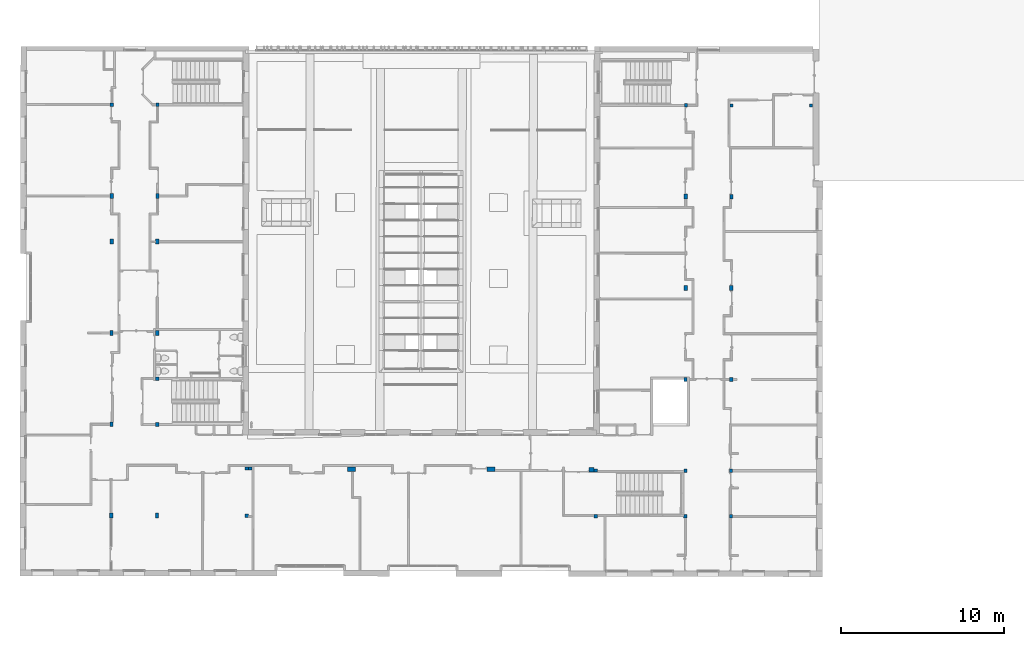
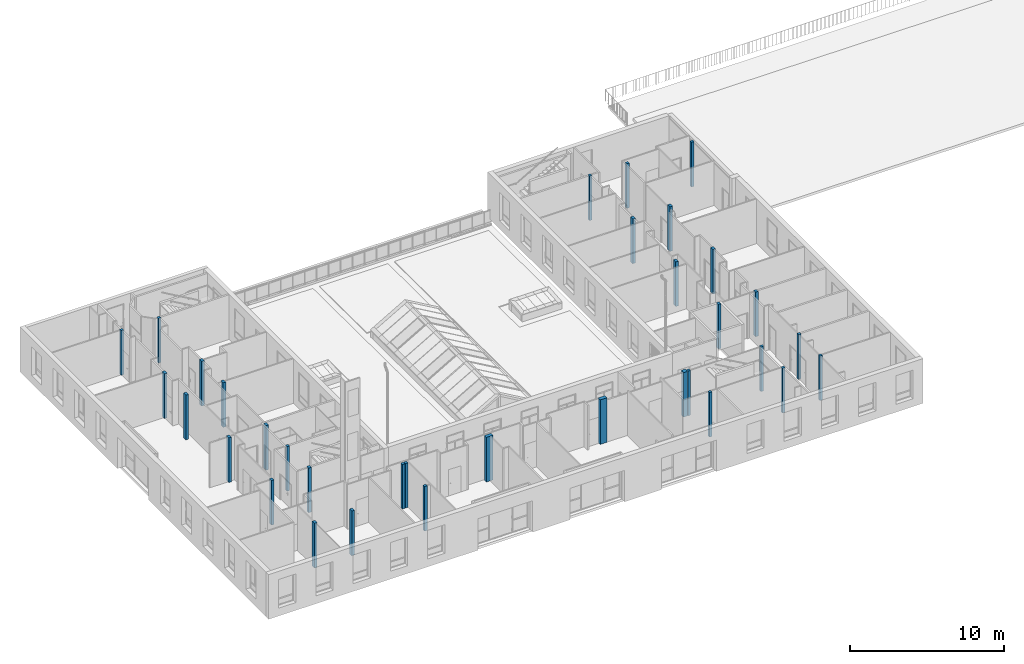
# One storey, part 1 of 101: 34 columns.
"""IFC2X3 building model written with IfcOpenShell, lengths in metres."""

import ifcopenshell
import ifcopenshell.guid

model = None  # the IFC model being written
_history = None  # IfcOwnerHistory: only IFC2X3 demands one
_inside = {}  # id of a spatial element -> (the spatial element, [elements in it])
_under = {}  # id of a project, library or spatial element -> (it, [spatial elements below it])
_declared = {}  # id of a project -> (the project, [libraries it declares])
_typed = {}  # id of a type object -> (the type object, [elements of that type])
_made_of = {}  # id of a material, layer set ... -> (it, [elements and type objects made of it])


def new_model(schema):
    """Start an empty IFC model of exactly this schema.

    Asked for "IFC4X3", IfcOpenShell would pick the latest addendum, in which some entities
    have other attributes; the version numbers below select the first issue.
    IFC2X3 requires an IfcOwnerHistory on every rooted entity: one is made here for all.
    """
    global model, _history
    if schema == "IFC4X3":
        model = ifcopenshell.file(schema_version=(4, 3, 0, 0))
    else:
        model = ifcopenshell.file(schema=schema)
    _inside.clear()
    _under.clear()
    _declared.clear()
    _typed.clear()
    _made_of.clear()
    _history = None
    if model.schema == "IFC2X3":
        org = make("IfcOrganization", Name="unknown")
        user = make(
            "IfcPersonAndOrganization",
            ThePerson=make("IfcPerson", FamilyName="unknown"),
            TheOrganization=org,
        )
        app = make(
            "IfcApplication",
            ApplicationDeveloper=org,
            Version="unknown",
            ApplicationFullName="unknown",
            ApplicationIdentifier="unknown",
        )
        _history = make(
            "IfcOwnerHistory",
            OwningUser=user,
            OwningApplication=app,
            ChangeAction="ADDED",
            CreationDate=0,
        )
    return model


def make(cls, **values):
    """One entity of the class cls with the attributes given. An attribute that is None is left unset."""
    return model.create_entity(
        cls, **{name: value for name, value in values.items() if value is not None}
    )


def entity(cls, *values):
    """Any entity or typed value of the class cls, its attributes in the order of the schema. None: left unset."""
    e = model.create_entity(cls)
    for i, value in enumerate(values):
        if value is not None:
            e[i] = value
    return e


def rooted(cls, **values):
    """An entity with a GlobalId (a new one), such as an element, a storey or a relation."""
    return make(cls, GlobalId=ifcopenshell.guid.new(), OwnerHistory=_history, **values)


def si_unit(unit_type, name, prefix=None):
    """IfcSIUnit, for example si_unit("LENGTHUNIT", "METRE", prefix="MILLI")."""
    return make("IfcSIUnit", UnitType=unit_type, Prefix=prefix, Name=name)


def converted_unit(unit_type, name, factor, base, dimensions=None, offset=None):
    """IfcConversionBasedUnit, such as the inch: factor (a typed value) times the base unit."""
    return make(
        "IfcConversionBasedUnit"
        if offset is None
        else "IfcConversionBasedUnitWithOffset",
        ConversionOffset=offset,
        Dimensions=None
        if dimensions is None
        else entity("IfcDimensionalExponents", *dimensions),
        UnitType=unit_type,
        Name=name,
        ConversionFactor=make(
            "IfcMeasureWithUnit", ValueComponent=factor, UnitComponent=base
        ),
    )


def derived_unit(unit_type, elements):
    """IfcDerivedUnit: a product of units, each with its exponent."""
    return make(
        "IfcDerivedUnit",
        Elements=[
            make("IfcDerivedUnitElement", Unit=unit, Exponent=power)
            for unit, power in elements
        ],
        UnitType=unit_type,
    )


def assignment(units):
    """IfcUnitAssignment: the units of a project."""
    return None if units is None else make("IfcUnitAssignment", Units=units)


def point(xyz):
    """IfcCartesianPoint."""
    return None if xyz is None else make("IfcCartesianPoint", Coordinates=xyz)


def direction(xyz):
    """IfcDirection."""
    return None if xyz is None else make("IfcDirection", DirectionRatios=xyz)


def frame(location, z_axis=None, x_axis=None):
    """IfcAxis2Placement3D, a coordinate frame: its origin and axes. An axis left out is left unset."""
    return make(
        "IfcAxis2Placement3D",
        Location=point(location),
        Axis=direction(z_axis),
        RefDirection=direction(x_axis),
    )


def frame_2d(location, x_axis=None):
    """IfcAxis2Placement2D, a coordinate frame in the plane: its origin and x axis."""
    return make(
        "IfcAxis2Placement2D", Location=point(location), RefDirection=direction(x_axis)
    )


def origin():
    """The frame at (0, 0, 0) with its axes left unset."""
    return frame((0.0, 0.0, 0.0))


def origin_2d_with_axis():
    """The frame at (0, 0) in the plane with the x axis (1, 0) written out."""
    return frame_2d((0.0, 0.0), x_axis=(1.0, 0.0))


def place(relative_to, where):
    """IfcLocalPlacement: puts the frame where relative to a parent placement (None: the world)."""
    return make(
        "IfcLocalPlacement", PlacementRelTo=relative_to, RelativePlacement=where
    )


def context(
    kind, dimensions, precision=None, world=None, true_north=None, identifier=None
):
    """IfcGeometricRepresentationContext, for example the 3D "Model" context."""
    return make(
        "IfcGeometricRepresentationContext",
        ContextIdentifier=identifier,
        ContextType=kind,
        CoordinateSpaceDimension=dimensions,
        Precision=precision,
        WorldCoordinateSystem=world,
        TrueNorth=true_north,
    )


def subcontext(parent, identifier, kind, view, scale=None):
    """IfcGeometricRepresentationSubContext, for example "Body" below "Model"."""
    return make(
        "IfcGeometricRepresentationSubContext",
        ContextIdentifier=identifier,
        ContextType=kind,
        ParentContext=parent,
        TargetScale=scale,
        TargetView=view,
    )


def project(units=None, contexts=None):
    """IfcProject with its units and contexts."""
    return rooted(
        "IfcProject",
        Name="project",
        RepresentationContexts=contexts,
        UnitsInContext=assignment(units),
    )


def spatial(cls, under=None, at=None, **own):
    """A site, building, storey or space (cls), placed at a placement, below another one or the project."""
    s = rooted(cls, ObjectPlacement=at, **own)
    if under is not None:
        _under.setdefault(under.id(), (under, []))[1].append(s)
    return s


def profile(cls, at=None, kind="AREA", **sizes):
    """A parametric profile (cls). Its sizes go by their IFC names, for example OverallWidth=200.0."""
    return make(cls, ProfileType=kind, Position=at, **sizes)


def rectangle(**sizes):
    """IfcRectangleProfileDef."""
    return profile("IfcRectangleProfileDef", **sizes)


def extrude(swept, where, along, depth):
    """IfcExtrudedAreaSolid: the profile swept, set in the frame where, extruded along a direction by depth."""
    return make(
        "IfcExtrudedAreaSolid",
        SweptArea=swept,
        Position=where,
        ExtrudedDirection=direction(along),
        Depth=depth,
    )


def shape(context_of_items, identifier, shape_type, items):
    """IfcShapeRepresentation: the items that make up one representation, for example the "Body"."""
    return make(
        "IfcShapeRepresentation",
        ContextOfItems=context_of_items,
        RepresentationIdentifier=identifier,
        RepresentationType=shape_type,
        Items=items,
    )


def source(mapping_origin, context_of_items, identifier, shape_type, items):
    """IfcRepresentationMap: a shape defined once, which mapped items show again and again."""
    return make(
        "IfcRepresentationMap",
        MappingOrigin=mapping_origin,
        MappedRepresentation=shape(context_of_items, identifier, shape_type, items),
    )


def transform(
    local_origin,
    x_axis=None,
    y_axis=None,
    z_axis=None,
    scale=None,
    scale2=None,
    scale3=None,
    uniform=True,
):
    """IfcCartesianTransformationOperator3D, or its non-uniform kind. x_axis, y_axis, z_axis: its Axis1, 2, 3."""
    if uniform:
        return make(
            "IfcCartesianTransformationOperator3D",
            Axis1=direction(x_axis),
            Axis2=direction(y_axis),
            LocalOrigin=point(local_origin),
            Scale=scale,
            Axis3=direction(z_axis),
        )
    return make(
        "IfcCartesianTransformationOperator3DnonUniform",
        Axis1=direction(x_axis),
        Axis2=direction(y_axis),
        LocalOrigin=point(local_origin),
        Scale=scale,
        Axis3=direction(z_axis),
        Scale2=scale2,
        Scale3=scale3,
    )


def mapped(mapping_source, mapping_target):
    """IfcMappedItem: shows the shape of a source again, moved by a transform."""
    return make(
        "IfcMappedItem", MappingSource=mapping_source, MappingTarget=mapping_target
    )


def material(Name=None, Category=None):
    """IfcMaterial."""
    return make("IfcMaterial", Name=Name, Category=Category)


def made_of(thing, what):
    """Note that an element or type object is made of a material, layer set ...; save() writes the relation."""
    if what is not None:
        _made_of.setdefault(what.id(), (what, []))[1].append(thing)
    return thing


def type_object(cls, material=None, **own):
    """A type object (cls), such as IfcWallType, which elements share."""
    return made_of(rooted(cls, **own), material)


def type_shapes(of_type, sources):
    """Give a type object the sources (RepresentationMaps) that its elements show as mapped items."""
    of_type.RepresentationMaps = sources


def element(
    cls,
    number,
    at=None,
    inside=None,
    cuts=None,
    type_object=None,
    material=None,
    context=None,
    identifier="Body",
    shape_type=None,
    held_by="IfcProductDefinitionShape",
    body=None,
    shapes=None,
    **own,
):
    """One element of the class cls, such as IfcWall. Its Tag is "e" and its number.

    at: its placement. inside: the storey or other place that contains it. cuts: it is an
    opening in that element (IfcRelVoidsElement). A single representation is given by context,
    identifier, shape_type and body (its items); several are given by shapes. held_by: the class
    of the entity that holds the representations. save() writes the other relations.
    """
    e = rooted(cls, Tag="e%d" % number, ObjectPlacement=at, **own)
    if body is not None:
        shapes = [shape(context, identifier, shape_type, body)]
    if shapes is not None:
        e.Representation = make(held_by, Representations=shapes)
    if inside is not None:
        _inside.setdefault(inside.id(), (inside, []))[1].append(e)
    if cuts is not None:
        rooted(
            "IfcRelVoidsElement", RelatingBuildingElement=cuts, RelatedOpeningElement=e
        )
    if type_object is not None:
        _typed.setdefault(type_object.id(), (type_object, []))[1].append(e)
    return made_of(e, material)


def aggregate(whole, parts):
    """IfcRelAggregates: a whole, such as a stair, and the parts it consists of."""
    return rooted("IfcRelAggregates", RelatingObject=whole, RelatedObjects=parts)


def save(model, path):
    """Write the relations noted so far, then the file.

    IfcRelAggregates (storeys below a building ...), IfcRelContainedInSpatialStructure (elements
    in a storey), IfcRelDefinesByType, IfcRelAssociatesMaterial and IfcRelDeclares: one each for
    every whole, place, type object, material and project.
    """
    for whole, parts in _under.values():
        aggregate(whole, parts)
    for where, things in _inside.values():
        rooted(
            "IfcRelContainedInSpatialStructure",
            RelatedElements=things,
            RelatingStructure=where,
        )
    for kind, things in _typed.values():
        rooted("IfcRelDefinesByType", RelatedObjects=things, RelatingType=kind)
    for what, things in _made_of.values():
        rooted("IfcRelAssociatesMaterial", RelatedObjects=things, RelatingMaterial=what)
    for by, libraries in _declared.values():
        rooted("IfcRelDeclares", RelatingContext=by, RelatedDefinitions=libraries)
    model.write(path)


model = new_model("IFC2X3")

# Units and contexts
model_context = context("Model", 3, precision=1e-05, world=origin(), true_north=direction((6.123233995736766e-17, 1.0)))
body_context = subcontext(model_context, "Body", "Model", "MODEL_VIEW")
ifc_project = project(units=[si_unit("LENGTHUNIT", "METRE"), si_unit("AREAUNIT", "SQUARE_METRE"), converted_unit("PLANEANGLEUNIT", "DEGREE", entity("IfcPlaneAngleMeasure", 0.017453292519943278), si_unit("PLANEANGLEUNIT", "RADIAN"), dimensions=[0, 0, 0, 0, 0, 0, 0]), derived_unit("THERMALTRANSMITTANCEUNIT", [(si_unit("MASSUNIT", "GRAM", prefix="KILO"), 1), (si_unit("THERMODYNAMICTEMPERATUREUNIT", "KELVIN"), -1), (si_unit("TIMEUNIT", "SECOND"), -3)])], contexts=[model_context])

# Site, building, storey
site_placement = place(None, frame((1253.6752467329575, 2072.143113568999, 91.49999999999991), z_axis=(0.0, 0.0, 1.0), x_axis=(0.7237211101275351, 0.6900925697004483, 0.0)))
site = spatial("IfcSite", under=ifc_project, at=site_placement, Name="Surface", CompositionType="ELEMENT")
building_placement = place(site_placement, origin())
building = spatial("IfcBuilding", under=site, at=building_placement, CompositionType="ELEMENT")
storey_placement = place(building_placement, origin())
storey = spatial("IfcBuildingStorey", under=building, at=storey_placement, Name="0- Rdc", CompositionType="ELEMENT", Elevation=-5.764692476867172e-13)

# Columns
ifc_material = material(Name="<Unnamed>")
column_type_1 = type_object("IfcColumnType", Name="ART-Béton-Poteau rectangulaire:20X20", PredefinedType="COLUMN", material=ifc_material)
shared_shape_1 = source(origin(), body_context, "Body", "SweptSolid", [
    extrude(rectangle(XDim=0.19999999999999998, YDim=0.19999999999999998, at=origin_2d_with_axis()), frame((0.0, 0.0, 0.0), z_axis=(0.0, 0.0, 1.0), x_axis=(-1.0, 0.0, 0.0)), (0.0, 0.0, 1.0), 3.549999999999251),
])
type_shapes(column_type_1, [shared_shape_1])
for number, where, z_axis, x_axis in (
    (1, (193.19998534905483, -3.0347104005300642, 0.0), (0.0, 0.0, 1.0), (0.7228702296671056, -0.6909838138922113, 0.0)),
    (2, (195.22402199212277, -4.9694650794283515, 0.0), (0.0, 0.0, 1.0), (0.7228702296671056, -0.6909838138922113, 0.0)),
    (3, (177.72194791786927, -19.227003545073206, 0.0), (0.0, 0.0, 1.0), (0.7228702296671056, -0.6909838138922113, 0.0)),
    (4, (179.74598456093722, -21.161758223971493, 0.0), (0.0, 0.0, 1.0), (0.7228702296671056, -0.6909838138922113, 0.0)),
    (5, (175.78719323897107, -21.251040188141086, 0.0), (0.0, 0.0, 1.0), (0.7228702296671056, -0.6909838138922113, 0.0)),
    (6, (177.81122988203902, -23.185794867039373, 0.0), (0.0, 0.0, 1.0), (0.7228702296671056, -0.6909838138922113, 0.0)),
    (7, (173.74616165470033, -15.426592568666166, 0.0), (0.0, 0.0, 1.0), (0.7228702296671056, -0.6909838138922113, 0.0)),
    (8, (171.81140697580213, -17.450629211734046, 0.0), (0.0, 0.0, 1.0), (0.7228702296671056, -0.6909838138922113, 0.0)),
    (9, (158.342382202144, -0.5708662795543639, 0.0), (0.0, 0.0, 1.0), (0.7228702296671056, -0.6909838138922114, 0.0)),
    (10, (158.5014136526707, -0.722882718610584, 0.0), (0.0, 0.0, 1.0), (0.7228702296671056, -0.6909838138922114, 0.0)),
    (11, (156.34198406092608, -2.6635755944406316, 0.0), (0.0, 0.0, 1.0), (0.7228702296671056, -0.6909838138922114, 0.0)),
    (12, (158.1704618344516, 7.208945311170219, 0.0), (0.0, 0.0, 1.0), (0.7228702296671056, -0.6909838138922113, 0.0)),
    (13, (169.77898990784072, 19.35316516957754, 0.0), (0.0, 0.0, 1.0), (0.7228702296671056, -0.6909838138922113, 0.0)),
    (14, (167.75495326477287, 21.287919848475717, 0.0), (0.0, 0.0, 1.0), (0.7228702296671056, -0.6909838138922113, 0.0)),
    (15, (198.7444000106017, -8.334556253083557, 0.0), (0.0, 0.0, 1.0), (0.7228702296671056, -0.6909838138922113, 0.0)),
):
    element("IfcColumn", number, at=place(storey_placement, frame(where, z_axis=z_axis, x_axis=x_axis)), inside=storey, type_object=column_type_1, material=ifc_material, Name="ART-Béton-Poteau rectangulaire:20X20", ObjectType="ART-Béton-Poteau rectangulaire:20X20", context=body_context, shape_type="MappedRepresentation", body=[
        mapped(shared_shape_1, transform((0.0, 0.0, 0.0), scale=1.0)),
    ])
column_type_2 = type_object("IfcColumnType", Name="ART-Béton-Poteau rectangulaire:20X30", PredefinedType="COLUMN", material=ifc_material)
shared_shape_2 = source(origin(), body_context, "Body", "SweptSolid", [
    extrude(rectangle(XDim=0.19999999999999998, YDim=0.2999999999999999, at=origin_2d_with_axis()), frame((0.0, 0.0, 0.0), z_axis=(0.0, 0.0, 1.0), x_axis=(-1.0, 0.0, 0.0)), (0.0, 0.0, 1.0), 3.549999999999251),
])
type_shapes(column_type_2, [shared_shape_2])
for number, where, z_axis, x_axis in (
    (16, (189.33047599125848, -7.082783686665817, 0.0), (0.0, 0.0, 1.0), (0.7228702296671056, -0.6909838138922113, 0.0)),
    (17, (191.35451263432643, -9.017538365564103, 0.0), (0.0, 0.0, 1.0), (0.7228702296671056, -0.6909838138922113, 0.0)),
    (18, (185.4609666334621, -11.130856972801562, 0.0), (0.0, 0.0, 1.0), (0.7228702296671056, -0.6909838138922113, 0.0)),
    (19, (187.48500327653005, -13.065611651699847, 0.0), (0.0, 0.0, 1.0), (0.7228702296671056, -0.6909838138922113, 0.0)),
    (20, (152.366197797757, 1.136835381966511, 0.0), (0.0, 0.0, 1.0), (0.7228702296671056, -0.6909838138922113, 0.0)),
    (21, (150.34216115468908, 3.0715900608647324, 0.0), (0.0, 0.0, 1.0), (0.7228702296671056, -0.6909838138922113, 0.0)),
    (22, (160.10521651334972, 9.232981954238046, 0.0), (0.0, 0.0, 1.0), (0.7228702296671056, -0.6909838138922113, 0.0)),
    (23, (158.0811798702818, 11.167736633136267, 0.0), (0.0, 0.0, 1.0), (0.7228702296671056, -0.6909838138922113, 0.0)),
    (24, (163.9747258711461, 13.281055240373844, 0.0), (0.0, 0.0, 1.0), (0.7228702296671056, -0.6909838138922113, 0.0)),
    (25, (161.9506892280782, 15.215809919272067, 0.0), (0.0, 0.0, 1.0), (0.7228702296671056, -0.6909838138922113, 0.0)),
    (26, (165.90948055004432, 15.305091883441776, 0.0), (0.0, 0.0, 1.0), (0.7228702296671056, -0.6909838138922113, 0.0)),
    (27, (163.88544390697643, 17.23984656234, 0.0), (0.0, 0.0, 1.0), (0.7228702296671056, -0.6909838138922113, 0.0)),
):
    element("IfcColumn", number, at=place(storey_placement, frame(where, z_axis=z_axis, x_axis=x_axis)), inside=storey, type_object=column_type_2, material=ifc_material, Name="ART-Béton-Poteau rectangulaire:20X30", ObjectType="ART-Béton-Poteau rectangulaire:20X30", context=body_context, shape_type="MappedRepresentation", body=[
        mapped(shared_shape_2, transform((0.0, 0.0, 0.0), scale=1.0)),
    ])
column_type_3 = type_object("IfcColumnType", Name="ART-Béton-Poteau rectangulaire:20X25", PredefinedType="COLUMN", material=ifc_material)
shared_shape_3 = source(origin(), body_context, "Body", "SweptSolid", [
    extrude(rectangle(XDim=0.19999999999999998, YDim=0.24999999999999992, at=origin_2d_with_axis()), frame((0.0, 0.0, 0.0), z_axis=(0.0, 0.0, 1.0), x_axis=(-1.0, 0.0, 0.0)), (0.0, 0.0, 1.0), 3.549999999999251),
])
type_shapes(column_type_3, [shared_shape_3])
for number, where, z_axis, x_axis in (
    (28, (181.59145727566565, -15.178930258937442, 0.0), (0.0, 0.0, 1.0), (0.7228702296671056, -0.6909838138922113, 0.0)),
    (29, (183.6154939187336, -17.113684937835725, 0.0), (0.0, 0.0, 1.0), (0.7228702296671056, -0.6909838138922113, 0.0)),
    (30, (156.23570715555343, 5.18490866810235, 0.0), (0.0, 0.0, 1.0), (0.7228702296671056, -0.6909838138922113, 0.0)),
    (31, (154.2116705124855, 7.119663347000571, 0.0), (0.0, 0.0, 1.0), (0.7228702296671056, -0.6909838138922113, 0.0)),
):
    element("IfcColumn", number, at=place(storey_placement, frame(where, z_axis=z_axis, x_axis=x_axis)), inside=storey, type_object=column_type_3, material=ifc_material, Name="ART-Béton-Poteau rectangulaire:20X25", ObjectType="ART-Béton-Poteau rectangulaire:20X25", context=body_context, shape_type="MappedRepresentation", body=[
        mapped(shared_shape_3, transform((0.0, 0.0, 0.0), scale=1.0)),
    ])
column_type_4 = type_object("IfcColumnType", Name="ART-Béton-Poteau rectangulaire:30x30", PredefinedType="COLUMN", material=ifc_material)
shared_shape_4 = source(origin(), body_context, "Body", "SweptSolid", [
    extrude(rectangle(XDim=0.2999999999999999, YDim=0.2999999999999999, at=origin_2d_with_axis()), frame((0.0, 0.0, 0.0), z_axis=(0.0, 0.0, 1.0), x_axis=(-1.0, 0.0, 0.0)), (0.0, 0.0, 1.0), 3.549999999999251),
])
type_shapes(column_type_4, [shared_shape_4])
column_placement = place(storey_placement, frame((173.58553588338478, -15.203883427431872, 0.0), z_axis=(0.0, 0.0, 1.0), x_axis=(0.7228702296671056, -0.6909838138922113, 0.0)))
element("IfcColumn", 32, at=column_placement, inside=storey, type_object=column_type_4, material=ifc_material, Name="ART-Béton-Poteau rectangulaire:30x30", ObjectType="ART-Béton-Poteau rectangulaire:30x30", context=body_context, shape_type="MappedRepresentation", body=[
    mapped(shared_shape_4, transform((0.0, 0.0, 0.0), scale=1.0)),
])
column_type_5 = type_object("IfcColumnType", Name="ART-Béton-Poteau rectangulaire:50X27", PredefinedType="COLUMN", material=ifc_material)
shared_shape_5 = source(origin(), body_context, "Body", "SweptSolid", [
    extrude(rectangle(XDim=0.49999999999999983, YDim=0.26999999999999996, at=origin_2d_with_axis()), frame((0.0, 0.0, 0.0), z_axis=(0.0, 0.0, 1.0), x_axis=(-1.0, 0.0, 0.0)), (0.0, 0.0, 1.0), 3.549999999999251),
])
type_shapes(column_type_5, [shared_shape_5])
for number, where, z_axis, x_axis in (
    (33, (169.146793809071, -10.947104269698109, 0.0), (0.0, 0.0, 1.0), (0.7228702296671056, -0.6909838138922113, 0.0)),
    (34, (162.95902464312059, -5.032282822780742, 0.0), (0.0, 0.0, 1.0), (0.7228702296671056, -0.6909838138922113, 0.0)),
):
    element("IfcColumn", number, at=place(storey_placement, frame(where, z_axis=z_axis, x_axis=x_axis)), inside=storey, type_object=column_type_5, material=ifc_material, Name="ART-Béton-Poteau rectangulaire:50X27", ObjectType="ART-Béton-Poteau rectangulaire:50X27", context=body_context, shape_type="MappedRepresentation", body=[
        mapped(shared_shape_5, transform((0.0, 0.0, 0.0), scale=1.0)),
    ])

save(model, "model.ifc")
